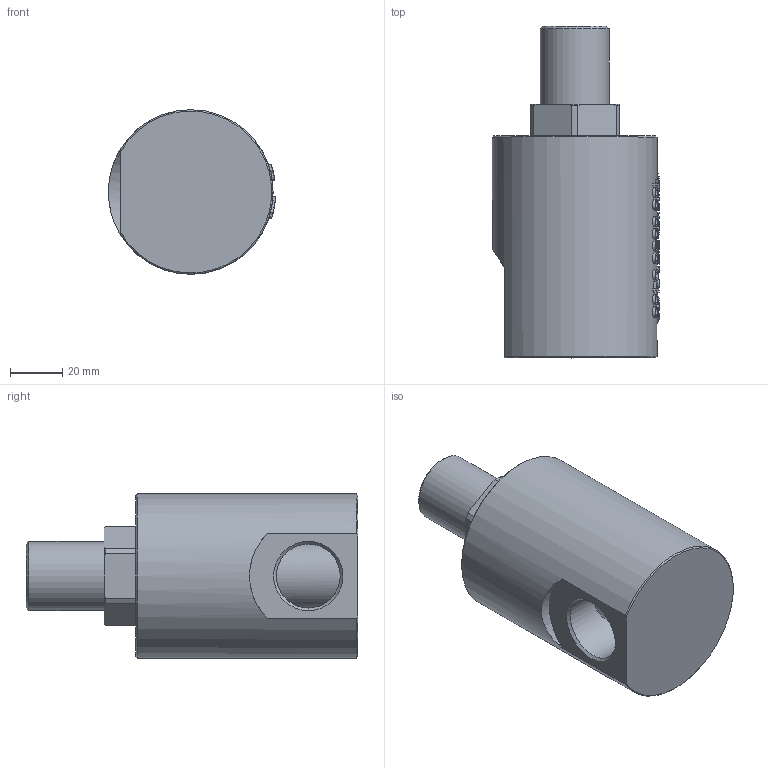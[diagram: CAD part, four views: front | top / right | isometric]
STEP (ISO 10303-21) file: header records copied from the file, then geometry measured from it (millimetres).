
FILE_DESCRIPTION(/* description */ (''),/* implementation_level */ '2;1');
FILE_NAME(/* name */ 'GYC0106.stp',/* time_stamp */ '2025-01-20T17:45:41+08:00',/* author */ (''),/* organization */ (''),/* preprocessor_version */ 'ST-DEVELOPER v16.7',/* originating_system */ 'SIEMENS PLM Software NX 12.0',/* authorisation */ '');
FILE_SCHEMA (('AUTOMOTIVE_DESIGN { 1 0 10303 214 3 1 1 1 }'));
Length unit declared in the file: millimetre
Products named in the file (1): HX056BE06534dez0
Bounding box: 63.96 x 127 x 63 mm (x, y, z)
Volume: 269401.5 mm3; surface area: 31342.9 mm2
Topology: 1 solids, 1 shells, 359 faces, 931 edges, 623 vertices
Faces by surface type: plane 198, extrusion 93, bspline 29, cylinder 28, cone 11
Full cylindrical faces by diameter (mm): 19 x1, 24.5 x1, 26.44 x1, 63 x1
Entity records: 32388 total; most frequent: CARTESIAN_POINT 24772, ORIENTED_EDGE 1816, DIRECTION 1030, EDGE_CURVE 908, B_SPLINE_CURVE_WITH_KNOTS 701, VERTEX_POINT 620, EDGE_LOOP 428, AXIS2_PLACEMENT_3D 399
